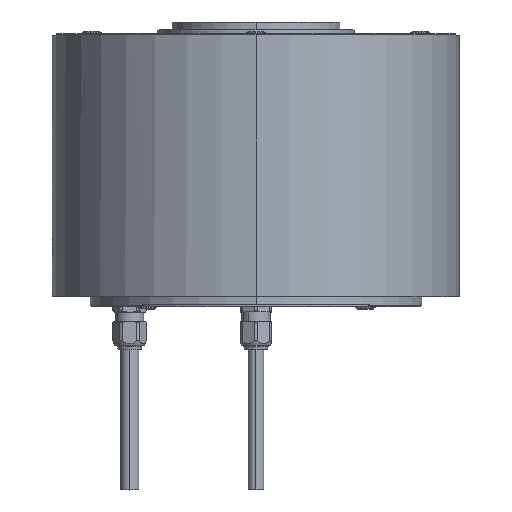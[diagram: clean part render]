
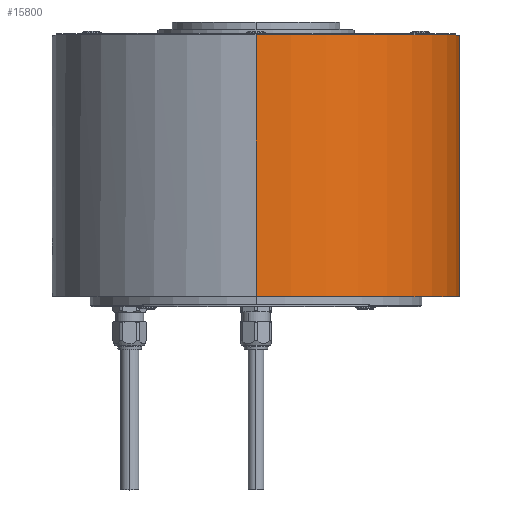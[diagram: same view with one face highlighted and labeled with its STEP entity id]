
A CAD part, top view. The second image highlights one B-rep face of the part: STEP entity #15800.
In plain terms, the highlighted cylindrical face has radius 72.5 mm (diameter 145 mm), a partial arc.
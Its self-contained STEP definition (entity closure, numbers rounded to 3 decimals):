
#537 = CARTESIAN_POINT ( 'NONE',  ( 0., 96.2, 72.5 ) ) ;
#560 = CARTESIAN_POINT ( 'NONE',  ( 0., 96.2, 0. ) ) ;
#2878 = AXIS2_PLACEMENT_3D ( 'NONE', #16775, #6074, #10575 ) ;
#3154 = DIRECTION ( 'NONE',  ( 0., -1., 0. ) ) ;
#3256 = VECTOR ( 'NONE', #14946, 1000. ) ;
#3288 = FACE_OUTER_BOUND ( 'NONE', #11205, .T. ) ;
#3353 = LINE ( 'NONE', #6362, #17655 ) ;
#3524 = CIRCLE ( 'NONE', #2878, 72.5 ) ;
#4346 = CARTESIAN_POINT ( 'NONE',  ( 0., 0., 0. ) ) ;
#5722 = AXIS2_PLACEMENT_3D ( 'NONE', #560, #8271, #6610 ) ;
#6074 = DIRECTION ( 'NONE',  ( 0., -1., 0. ) ) ;
#6362 = CARTESIAN_POINT ( 'NONE',  ( 0., 0., -72.5 ) ) ;
#6610 = DIRECTION ( 'NONE',  ( 0., 0., -1. ) ) ;
#7254 = VERTEX_POINT ( 'NONE', #537 ) ;
#7455 = DIRECTION ( 'NONE',  ( 0., -1., 0. ) ) ;
#7765 = VERTEX_POINT ( 'NONE', #19019 ) ;
#8271 = DIRECTION ( 'NONE',  ( 0., -1., 0. ) ) ;
#9152 = CIRCLE ( 'NONE', #5722, 72.5 ) ;
#9608 = ORIENTED_EDGE ( 'NONE', *, *, #17214, .F. ) ;
#10531 = CARTESIAN_POINT ( 'NONE',  ( 0., 0., 72.5 ) ) ;
#10575 = DIRECTION ( 'NONE',  ( 0., 0., -1. ) ) ;
#11205 = EDGE_LOOP ( 'NONE', ( #15284, #13701, #9608, #16755 ) ) ;
#12686 = EDGE_CURVE ( 'NONE', #7254, #7765, #18394, .T. ) ;
#13146 = CARTESIAN_POINT ( 'NONE',  ( 0., 3., -72.5 ) ) ;
#13701 = ORIENTED_EDGE ( 'NONE', *, *, #12686, .T. ) ;
#14273 = VERTEX_POINT ( 'NONE', #17776 ) ;
#14928 = CYLINDRICAL_SURFACE ( 'NONE', #17590, 72.5 ) ;
#14946 = DIRECTION ( 'NONE',  ( 0., -1., 0. ) ) ;
#15127 = DIRECTION ( 'NONE',  ( 0., 0., -1. ) ) ;
#15284 = ORIENTED_EDGE ( 'NONE', *, *, #16655, .T. ) ;
#15800 = ADVANCED_FACE ( 'NONE', ( #3288 ), #14928, .T. ) ;
#16655 = EDGE_CURVE ( 'NONE', #14273, #7254, #9152, .T. ) ;
#16755 = ORIENTED_EDGE ( 'NONE', *, *, #18589, .F. ) ;
#16775 = CARTESIAN_POINT ( 'NONE',  ( 0., 3., 0. ) ) ;
#16797 = VERTEX_POINT ( 'NONE', #13146 ) ;
#17214 = EDGE_CURVE ( 'NONE', #16797, #7765, #3524, .T. ) ;
#17590 = AXIS2_PLACEMENT_3D ( 'NONE', #4346, #7455, #15127 ) ;
#17655 = VECTOR ( 'NONE', #3154, 1000. ) ;
#17776 = CARTESIAN_POINT ( 'NONE',  ( 0., 96.2, -72.5 ) ) ;
#18394 = LINE ( 'NONE', #10531, #3256 ) ;
#18589 = EDGE_CURVE ( 'NONE', #14273, #16797, #3353, .T. ) ;
#19019 = CARTESIAN_POINT ( 'NONE',  ( 0., 3., 72.5 ) ) ;
